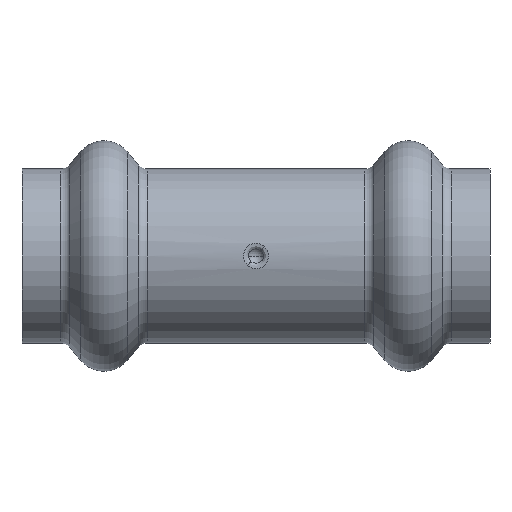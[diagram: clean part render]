
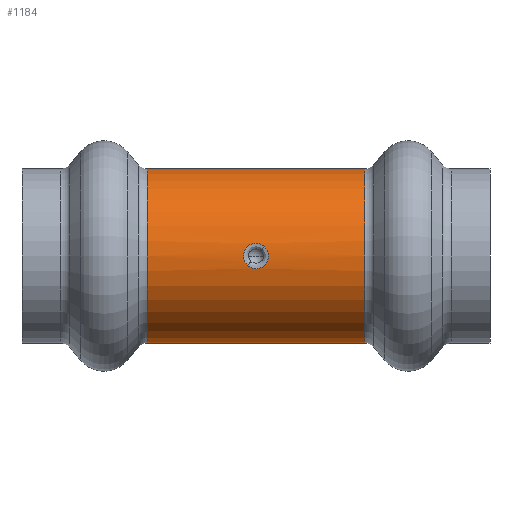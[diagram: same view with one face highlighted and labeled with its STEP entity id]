
A CAD part, front view. The second image highlights one B-rep face of the part: STEP entity #1184.
In plain terms, the highlighted cylindrical face has radius 7.45 mm (diameter 14.9 mm), a partial arc.
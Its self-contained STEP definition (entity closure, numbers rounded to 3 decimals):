
#14 = DIRECTION ( 'NONE',  ( -1., 0., 0. ) ) ;
#23 = CARTESIAN_POINT ( 'NONE',  ( -16.83, 0., 7.45 ) ) ;
#26 = ORIENTED_EDGE ( 'NONE', *, *, #735, .F. ) ;
#30 = CARTESIAN_POINT ( 'NONE',  ( -0.724, -7.407, -0.803 ) ) ;
#151 = DIRECTION ( 'NONE',  ( 1., 0., 0. ) ) ;
#174 = CARTESIAN_POINT ( 'NONE',  ( 0.958, -7.434, -0.503 ) ) ;
#182 = CARTESIAN_POINT ( 'NONE',  ( 0.724, -7.407, 0.804 ) ) ;
#190 = VERTEX_POINT ( 'NONE', #1787 ) ;
#201 = CYLINDRICAL_SURFACE ( 'NONE', #311, 7.45 ) ;
#234 = CARTESIAN_POINT ( 'NONE',  ( 9.307, 0., -7.45 ) ) ;
#275 = AXIS2_PLACEMENT_3D ( 'NONE', #1815, #151, #1660 ) ;
#311 = AXIS2_PLACEMENT_3D ( 'NONE', #736, #994, #724 ) ;
#312 = CARTESIAN_POINT ( 'NONE',  ( 1.027, -7.444, 0.332 ) ) ;
#336 = VERTEX_POINT ( 'NONE', #564 ) ;
#410 = CARTESIAN_POINT ( 'NONE',  ( -0.827, -7.417, -0.706 ) ) ;
#432 = ORIENTED_EDGE ( 'NONE', *, *, #990, .T. ) ;
#496 = CARTESIAN_POINT ( 'NONE',  ( 0.699, -7.403, -0.838 ) ) ;
#564 = CARTESIAN_POINT ( 'NONE',  ( -9.307, 0., -7.45 ) ) ;
#577 = VERTEX_POINT ( 'NONE', #1549 ) ;
#607 = EDGE_LOOP ( 'NONE', ( #26, #1585, #432, #825 ) ) ;
#614 = CARTESIAN_POINT ( 'NONE',  ( -1.06, -7.449, -0.191 ) ) ;
#637 = CARTESIAN_POINT ( 'NONE',  ( 0.827, -7.417, 0.707 ) ) ;
#642 = CARTESIAN_POINT ( 'NONE',  ( -0.621, -7.396, -0.9 ) ) ;
#645 = CARTESIAN_POINT ( 'NONE',  ( -0.724, -7.407, -0.803 ) ) ;
#660 = CARTESIAN_POINT ( 'NONE',  ( 0.584, -7.393, -0.926 ) ) ;
#724 = DIRECTION ( 'NONE',  ( 0., 0., 1. ) ) ;
#725 = B_SPLINE_CURVE_WITH_KNOTS ( 'NONE', 3,
 ( #1311, #637, #1020, #312, #938, #1898, #883, #174, #2091, #496, #660, #1192, #1327, #842, #845, #861, #642, #645 ),
 .UNSPECIFIED., .F., .F.,
 ( 4, 2, 2, 2, 2, 2, 2, 2, 4 ),
 ( 0.003, 0.004, 0.004, 0.005, 0.005, 0.005, 0.006, 0.006, 0.007 ),
 .UNSPECIFIED. ) ;
#732 = CARTESIAN_POINT ( 'NONE',  ( -1.073, -7.451, 0.091 ) ) ;
#735 = EDGE_CURVE ( 'NONE', #1611, #336, #914, .T. ) ;
#736 = CARTESIAN_POINT ( 'NONE',  ( -16.83, 0., 0. ) ) ;
#738 = CARTESIAN_POINT ( 'NONE',  ( -1.052, -7.447, 0.235 ) ) ;
#825 = ORIENTED_EDGE ( 'NONE', *, *, #1851, .T. ) ;
#842 = CARTESIAN_POINT ( 'NONE',  ( -0.093, -7.369, -1.097 ) ) ;
#845 = CARTESIAN_POINT ( 'NONE',  ( -0.235, -7.372, -1.075 ) ) ;
#861 = CARTESIAN_POINT ( 'NONE',  ( -0.501, -7.386, -0.975 ) ) ;
#883 = CARTESIAN_POINT ( 'NONE',  ( 1.052, -7.448, -0.235 ) ) ;
#914 = LINE ( 'NONE', #1446, #1706 ) ;
#920 = VERTEX_POINT ( 'NONE', #1844 ) ;
#928 = CARTESIAN_POINT ( 'NONE',  ( -0.959, -7.434, 0.501 ) ) ;
#934 = CARTESIAN_POINT ( 'NONE',  ( -0.887, -7.424, 0.626 ) ) ;
#938 = CARTESIAN_POINT ( 'NONE',  ( 1.06, -7.449, 0.192 ) ) ;
#990 = EDGE_CURVE ( 'NONE', #920, #190, #1297, .T. ) ;
#994 = DIRECTION ( 'NONE',  ( -1., 0., 0. ) ) ;
#996 = CARTESIAN_POINT ( 'NONE',  ( -0.7, -7.404, 0.837 ) ) ;
#1020 = CARTESIAN_POINT ( 'NONE',  ( 0.91, -7.428, 0.589 ) ) ;
#1079 = CARTESIAN_POINT ( 'NONE',  ( -0.586, -7.393, 0.924 ) ) ;
#1094 = CARTESIAN_POINT ( 'NONE',  ( -0.33, -7.376, 1.048 ) ) ;
#1113 = CARTESIAN_POINT ( 'NONE',  ( -0.192, -7.371, 1.084 ) ) ;
#1184 = ADVANCED_FACE ( 'NONE', ( #1920, #1687 ), #201, .T. ) ;
#1192 = CARTESIAN_POINT ( 'NONE',  ( 0.33, -7.376, -1.048 ) ) ;
#1245 = CARTESIAN_POINT ( 'NONE',  ( 0.092, -7.369, 1.097 ) ) ;
#1262 = CARTESIAN_POINT ( 'NONE',  ( 0.234, -7.372, 1.075 ) ) ;
#1297 = LINE ( 'NONE', #23, #1721 ) ;
#1311 = CARTESIAN_POINT ( 'NONE',  ( 0.724, -7.407, 0.804 ) ) ;
#1327 = CARTESIAN_POINT ( 'NONE',  ( 0.19, -7.371, -1.084 ) ) ;
#1330 = CARTESIAN_POINT ( 'NONE',  ( 0.499, -7.386, 0.976 ) ) ;
#1333 = ORIENTED_EDGE ( 'NONE', *, *, #1578, .T. ) ;
#1413 = CARTESIAN_POINT ( 'NONE',  ( 0.621, -7.396, 0.9 ) ) ;
#1435 = DIRECTION ( 'NONE',  ( -1., 0., 0. ) ) ;
#1446 = CARTESIAN_POINT ( 'NONE',  ( -16.83, 0., -7.45 ) ) ;
#1463 = CARTESIAN_POINT ( 'NONE',  ( 0.724, -7.407, 0.804 ) ) ;
#1481 = AXIS2_PLACEMENT_3D ( 'NONE', #1592, #1601, #1715 ) ;
#1493 = VERTEX_POINT ( 'NONE', #182 ) ;
#1500 = ORIENTED_EDGE ( 'NONE', *, *, #1783, .T. ) ;
#1549 = CARTESIAN_POINT ( 'NONE',  ( -0.724, -7.407, -0.803 ) ) ;
#1578 = EDGE_CURVE ( 'NONE', #577, #1493, #1966, .T. ) ;
#1579 = EDGE_CURVE ( 'NONE', #1611, #920, #1735, .T. ) ;
#1585 = ORIENTED_EDGE ( 'NONE', *, *, #1579, .T. ) ;
#1592 = CARTESIAN_POINT ( 'NONE',  ( 9.307, 0., 0. ) ) ;
#1601 = DIRECTION ( 'NONE',  ( -1., 0., 0. ) ) ;
#1611 = VERTEX_POINT ( 'NONE', #234 ) ;
#1634 = CARTESIAN_POINT ( 'NONE',  ( -1.027, -7.444, -0.331 ) ) ;
#1660 = DIRECTION ( 'NONE',  ( 0., 0., -1. ) ) ;
#1687 = FACE_BOUND ( 'NONE', #1984, .T. ) ;
#1706 = VECTOR ( 'NONE', #1435, 1000. ) ;
#1715 = DIRECTION ( 'NONE',  ( 0., 0., 1. ) ) ;
#1721 = VECTOR ( 'NONE', #14, 1000. ) ;
#1735 = CIRCLE ( 'NONE', #1481, 7.45 ) ;
#1772 = CARTESIAN_POINT ( 'NONE',  ( -0.91, -7.428, -0.589 ) ) ;
#1783 = EDGE_CURVE ( 'NONE', #1493, #577, #725, .T. ) ;
#1787 = CARTESIAN_POINT ( 'NONE',  ( -9.307, 0., 7.45 ) ) ;
#1815 = CARTESIAN_POINT ( 'NONE',  ( -9.307, 0., 0. ) ) ;
#1844 = CARTESIAN_POINT ( 'NONE',  ( 9.307, 0., 7.45 ) ) ;
#1851 = EDGE_CURVE ( 'NONE', #190, #336, #2008, .T. ) ;
#1898 = CARTESIAN_POINT ( 'NONE',  ( 1.073, -7.451, -0.093 ) ) ;
#1920 = FACE_OUTER_BOUND ( 'NONE', #607, .T. ) ;
#1966 = B_SPLINE_CURVE_WITH_KNOTS ( 'NONE', 3,
 ( #30, #410, #1772, #1634, #614, #732, #738, #928, #934, #996, #1079, #1094, #1113, #1245, #1262, #1330, #1413, #1463 ),
 .UNSPECIFIED., .F., .F.,
 ( 4, 2, 2, 2, 2, 2, 2, 2, 4 ),
 ( 0.007, 0.007, 0.008, 0.008, 0.008, 0.009, 0.009, 0.01, 0.01 ),
 .UNSPECIFIED. ) ;
#1984 = EDGE_LOOP ( 'NONE', ( #1333, #1500 ) ) ;
#2008 = CIRCLE ( 'NONE', #275, 7.45 ) ;
#2091 = CARTESIAN_POINT ( 'NONE',  ( 0.886, -7.424, -0.627 ) ) ;
